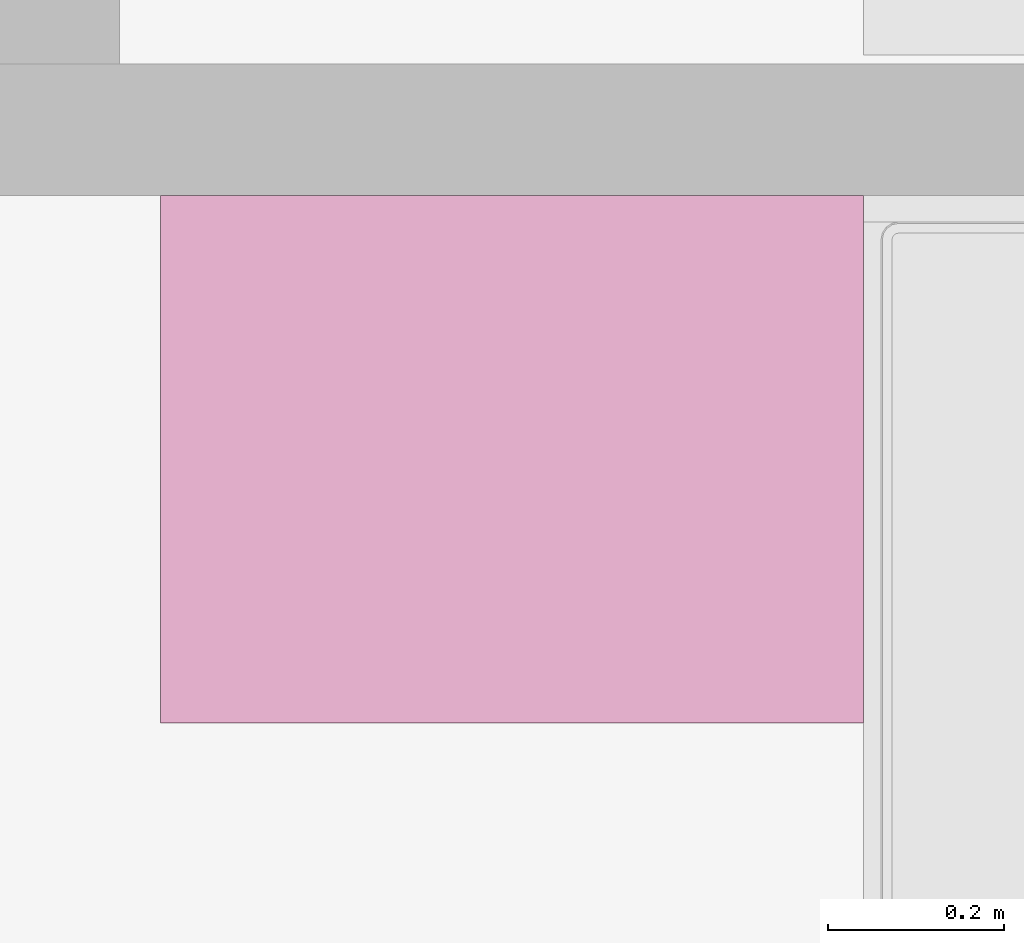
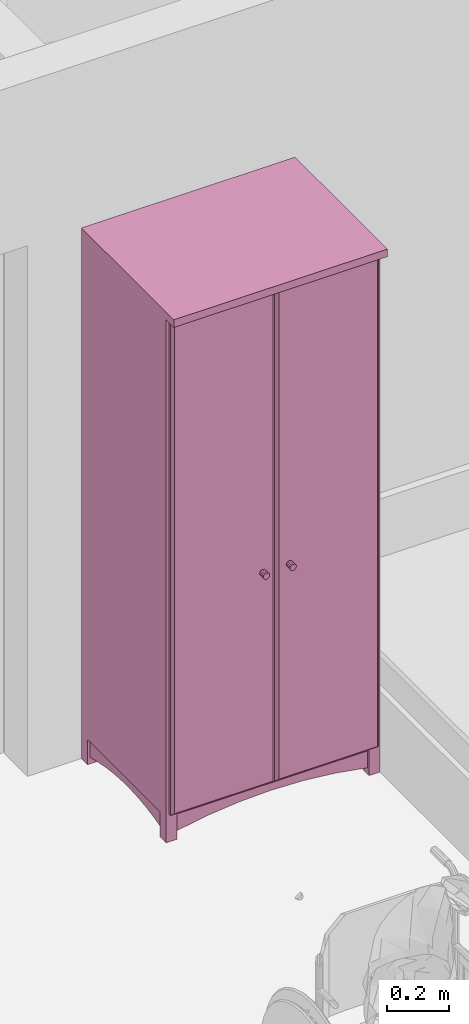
# One storey, part 120 of 172: 1 furnishing.
"""IFC2X3 building model written with IfcOpenShell, lengths in millimetres."""

from ifc_helpers import new_model, entity, si_unit, converted_unit, money_unit, direction, frame, origin_with_axes, place, context, subcontext, project, spatial, faceted_brep, source, transform, mapped, material, material_list, type_object, element, save


model = new_model("IFC2X3")

# Units and contexts
model_context = context("Model", 3, precision=1e-05, world=origin_with_axes(), true_north=direction((0.0, 1.0)))
body_context = subcontext(model_context, "Body", "Model", "MODEL_VIEW")
ifc_project = project(units=[si_unit("LENGTHUNIT", "METRE", prefix="MILLI"), si_unit("AREAUNIT", "SQUARE_METRE"), si_unit("VOLUMEUNIT", "CUBIC_METRE"), converted_unit("PLANEANGLEUNIT", "DEGREE", entity("IfcPlaneAngleMeasure", 0.0174532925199), si_unit("PLANEANGLEUNIT", "RADIAN"), dimensions=[0, 0, 0, 0, 0, 0, 0]), si_unit("SOLIDANGLEUNIT", "STERADIAN"), money_unit("USD"), converted_unit("TIMEUNIT", "Year", entity("IfcTimeMeasure", 31556926.0), si_unit("TIMEUNIT", "SECOND"), dimensions=[0, 0, 0, 0, 0, 0, 0]), si_unit("MASSUNIT", "GRAM"), si_unit("THERMODYNAMICTEMPERATUREUNIT", "DEGREE_CELSIUS"), si_unit("LUMINOUSINTENSITYUNIT", "LUMEN")], contexts=[model_context])

# Site, building, storey
site_placement = place(None, origin_with_axes())
site = spatial("IfcSite", under=ifc_project, at=site_placement, Name="Site", CompositionType="ELEMENT")
building_placement = place(site_placement, origin_with_axes())
building = spatial("IfcBuilding", under=site, at=building_placement, Name="Building", CompositionType="ELEMENT")
storey_placement = place(building_placement, frame((0.0, 0.0, 3200.0), z_axis=(0.0, 0.0, 1.0), x_axis=(1.0, 0.0, 0.0)))
storey = spatial("IfcBuildingStorey", under=building, at=storey_placement, Name="3KORRUS", CompositionType="ELEMENT", Elevation=3200.0)

# Furnishing
ifc_material = material(Name="Background")
ifc_material_list = material_list([ifc_material])
furnishing_element_type = type_object("IfcFurnishingElementType", Name="Cupboard 19")
shared_shape = source(origin_with_axes(), body_context, "Body", "Brep", [
    faceted_brep([(780.0, 600.0, 120.0), (780.0, 600.0, 2050.0), (780.0, 580.0, 2050.0), (780.0, 580.0, 120.0), (20.0, 600.0, 120.0), (20.0, 600.0, 2050.0), (20.0, 580.0, 2050.0), (20.0, 580.0, 120.0)], [[[0, 1, 2, 3]], [[4, 5, 1, 0]], [[1, 5, 6, 2]], [[3, 2, 6, 7]], [[0, 3, 7, 4]], [[7, 6, 5, 4]]]),
    faceted_brep([(0.0, 50.0, 100.0), (0.0, 600.0, 100.0), (20.0, 600.0, 100.0), (20.0, 50.0, 100.0), (0.0, 50.0, 2070.0), (0.0, 600.0, 2070.0), (20.0, 600.0, 2070.0), (20.0, 50.0, 2070.0)], [[[0, 1, 2, 3]], [[0, 4, 5, 1]], [[1, 5, 6, 2]], [[2, 6, 7, 3]], [[3, 7, 4, 0]], [[7, 6, 5, 4]]]),
    faceted_brep([(780.0, 50.0, 100.0), (780.0, 600.0, 100.0), (800.0, 600.0, 100.0), (800.0, 50.0, 100.0), (780.0, 50.0, 2070.0), (780.0, 600.0, 2070.0), (800.0, 600.0, 2070.0), (800.0, 50.0, 2070.0)], [[[0, 1, 2, 3]], [[0, 4, 5, 1]], [[1, 5, 6, 2]], [[2, 6, 7, 3]], [[3, 7, 4, 0]], [[7, 6, 5, 4]]]),
    faceted_brep([(20.0, 50.0, 100.0), (20.0, 600.0, 100.0), (780.0, 600.0, 100.0), (780.0, 50.0, 100.0), (20.0, 50.0, 120.0), (20.0, 600.0, 120.0), (780.0, 600.0, 120.0), (780.0, 50.0, 120.0)], [[[0, 1, 2, 3]], [[0, 4, 5, 1]], [[1, 5, 6, 2]], [[2, 6, 7, 3]], [[3, 7, 4, 0]], [[7, 6, 5, 4]]]),
    faceted_brep([(20.0, 50.0, 2050.0), (20.0, 600.0, 2050.0), (780.0, 600.0, 2050.0), (780.0, 50.0, 2050.0), (20.0, 50.0, 2070.0), (20.0, 600.0, 2070.0), (780.0, 600.0, 2070.0), (780.0, 50.0, 2070.0)], [[[0, 1, 2, 3]], [[0, 4, 5, 1]], [[1, 5, 6, 2]], [[2, 6, 7, 3]], [[3, 7, 4, 0]], [[7, 6, 5, 4]]]),
    faceted_brep([(0.0, 600.0, 2070.0), (0.0, 0.0, 2070.0), (0.0, 0.0, 2100.0), (0.0, 600.0, 2100.0), (800.0, 600.0, 2070.0), (800.0, 0.0, 2070.0), (800.0, 0.0, 2100.0), (800.0, 600.0, 2100.0)], [[[0, 1, 2, 3]], [[0, 4, 5, 1]], [[1, 5, 6, 2]], [[3, 2, 6, 7]], [[4, 0, 3, 7]], [[5, 4, 7, 6]]]),
    faceted_brep([(760.0, 590.0, 25.0), (760.0, 570.0, 25.0), (640.962, 570.0, 45.8), (640.962, 590.0, 45.8), (760.0, 590.0, 100.0), (760.0, 570.0, 100.0), (40.0, 570.0, 100.0), (40.0, 570.0, 25.0), (159.038, 570.0, 45.8), (279.23, 570.0, 58.32), (400.0, 570.0, 62.5), (520.77, 570.0, 58.32), (520.77, 590.0, 58.32), (400.0, 590.0, 62.5), (279.23, 590.0, 58.32), (159.038, 590.0, 45.8), (40.0, 590.0, 25.0), (40.0, 590.0, 100.0)], [[[0, 1, 2, 3]], [[4, 5, 1, 0]], [[1, 5, 6, 7, 8, 9, 10, 11, 2]], [[3, 2, 11, 12]], [[0, 3, 12, 13, 14, 15, 16, 17, 4]], [[17, 6, 5, 4]], [[16, 7, 6, 17]], [[15, 8, 7, 16]], [[14, 9, 8, 15]], [[13, 10, 9, 14]], [[12, 11, 10, 13]]]),
    faceted_brep([(760.0, 80.0, 25.0), (760.0, 60.0, 25.0), (640.962, 60.0, 45.8), (640.962, 80.0, 45.8), (760.0, 80.0, 100.0), (760.0, 60.0, 100.0), (40.0, 60.0, 100.0), (40.0, 60.0, 25.0), (159.038, 60.0, 45.8), (279.23, 60.0, 58.32), (400.0, 60.0, 62.5), (520.77, 60.0, 58.32), (520.77, 80.0, 58.32), (400.0, 80.0, 62.5), (279.23, 80.0, 58.32), (159.038, 80.0, 45.8), (40.0, 80.0, 25.0), (40.0, 80.0, 100.0)], [[[0, 1, 2, 3]], [[4, 5, 1, 0]], [[1, 5, 6, 7, 8, 9, 10, 11, 2]], [[3, 2, 11, 12]], [[0, 3, 12, 13, 14, 15, 16, 17, 4]], [[17, 6, 5, 4]], [[16, 7, 6, 17]], [[15, 8, 7, 16]], [[14, 9, 8, 15]], [[13, 10, 9, 14]], [[12, 11, 10, 13]]]),
    faceted_brep([(790.0, 90.0, 25.0), (770.0, 90.0, 25.0), (770.0, 141.266, 38.072), (790.0, 141.266, 38.072), (790.0, 90.0, 100.0), (770.0, 90.0, 100.0), (770.0, 560.0, 100.0), (770.0, 560.0, 25.0), (770.0, 508.734, 38.072), (770.0, 456.752, 47.92), (770.0, 404.257, 54.508), (770.0, 351.453, 57.808), (770.0, 298.547, 57.808), (770.0, 245.743, 54.508), (770.0, 193.248, 47.92), (790.0, 193.248, 47.92), (790.0, 245.743, 54.508), (790.0, 298.547, 57.808), (790.0, 351.453, 57.808), (790.0, 404.257, 54.508), (790.0, 456.752, 47.92), (790.0, 508.734, 38.072), (790.0, 560.0, 25.0), (790.0, 560.0, 100.0)], [[[0, 1, 2, 3]], [[4, 5, 1, 0]], [[1, 5, 6, 7, 8, 9, 10, 11, 12, 13, 14, 2]], [[3, 2, 14, 15]], [[0, 3, 15, 16, 17, 18, 19, 20, 21, 22, 23, 4]], [[23, 6, 5, 4]], [[22, 7, 6, 23]], [[21, 8, 7, 22]], [[20, 9, 8, 21]], [[19, 10, 9, 20]], [[18, 11, 10, 19]], [[17, 12, 11, 18]], [[16, 13, 12, 17]], [[15, 14, 13, 16]]]),
    faceted_brep([(30.0, 90.0, 25.0), (10.0, 90.0, 25.0), (10.0, 141.266, 38.072), (30.0, 141.266, 38.072), (30.0, 90.0, 100.0), (10.0, 90.0, 100.0), (10.0, 560.0, 100.0), (10.0, 560.0, 25.0), (10.0, 508.734, 38.072), (10.0, 456.752, 47.92), (10.0, 404.257, 54.508), (10.0, 351.453, 57.808), (10.0, 298.547, 57.808), (10.0, 245.743, 54.508), (10.0, 193.248, 47.92), (30.0, 193.248, 47.92), (30.0, 245.743, 54.508), (30.0, 298.547, 57.808), (30.0, 351.453, 57.808), (30.0, 404.257, 54.508), (30.0, 456.752, 47.92), (30.0, 508.734, 38.072), (30.0, 560.0, 25.0), (30.0, 560.0, 100.0)], [[[0, 1, 2, 3]], [[4, 5, 1, 0]], [[1, 5, 6, 7, 8, 9, 10, 11, 12, 13, 14, 2]], [[3, 2, 14, 15]], [[0, 3, 15, 16, 17, 18, 19, 20, 21, 22, 23, 4]], [[23, 6, 5, 4]], [[22, 7, 6, 23]], [[21, 8, 7, 22]], [[20, 9, 8, 21]], [[19, 10, 9, 20]], [[18, 11, 10, 19]], [[17, 12, 11, 18]], [[16, 13, 12, 17]], [[15, 14, 13, 16]]]),
    faceted_brep([(760.0, 560.0, 0.0), (760.0, 560.0, 100.0), (760.0, 600.0, 100.0), (760.0, 600.0, 0.0), (800.0, 560.0, 0.0), (800.0, 560.0, 100.0), (800.0, 600.0, 100.0), (800.0, 600.0, 0.0)], [[[0, 1, 2, 3]], [[4, 5, 1, 0]], [[1, 5, 6, 2]], [[3, 2, 6, 7]], [[0, 3, 7, 4]], [[7, 6, 5, 4]]]),
    faceted_brep([(0.0, 560.0, 0.0), (0.0, 560.0, 100.0), (0.0, 600.0, 100.0), (0.0, 600.0, 0.0), (40.0, 560.0, 0.0), (40.0, 560.0, 100.0), (40.0, 600.0, 100.0), (40.0, 600.0, 0.0)], [[[0, 1, 2, 3]], [[4, 5, 1, 0]], [[1, 5, 6, 2]], [[3, 2, 6, 7]], [[0, 3, 7, 4]], [[7, 6, 5, 4]]]),
    faceted_brep([(760.0, 50.0, 0.0), (760.0, 50.0, 100.0), (760.0, 90.0, 100.0), (760.0, 90.0, 0.0), (800.0, 50.0, 0.0), (800.0, 50.0, 100.0), (800.0, 90.0, 100.0), (800.0, 90.0, 0.0)], [[[0, 1, 2, 3]], [[4, 5, 1, 0]], [[1, 5, 6, 2]], [[3, 2, 6, 7]], [[0, 3, 7, 4]], [[7, 6, 5, 4]]]),
    faceted_brep([(0.0, 50.0, 0.0), (0.0, 50.0, 100.0), (0.0, 90.0, 100.0), (0.0, 90.0, 0.0), (40.0, 50.0, 0.0), (40.0, 50.0, 100.0), (40.0, 90.0, 100.0), (40.0, 90.0, 0.0)], [[[0, 1, 2, 3]], [[4, 5, 1, 0]], [[1, 5, 6, 2]], [[3, 2, 6, 7]], [[0, 3, 7, 4]], [[7, 6, 5, 4]]]),
    faceted_brep([(780.0, 580.0, 587.5), (780.0, 580.0, 607.5), (780.0, 50.0, 607.5), (780.0, 50.0, 587.5), (20.0, 580.0, 587.5), (20.0, 580.0, 607.5), (20.0, 50.0, 607.5), (20.0, 50.0, 587.5)], [[[0, 1, 2, 3]], [[4, 5, 1, 0]], [[1, 5, 6, 2]], [[3, 2, 6, 7]], [[0, 3, 7, 4]], [[7, 6, 5, 4]]]),
    faceted_brep([(780.0, 580.0, 1075.0), (780.0, 580.0, 1095.0), (780.0, 50.0, 1095.0), (780.0, 50.0, 1075.0), (20.0, 580.0, 1075.0), (20.0, 580.0, 1095.0), (20.0, 50.0, 1095.0), (20.0, 50.0, 1075.0)], [[[0, 1, 2, 3]], [[4, 5, 1, 0]], [[1, 5, 6, 2]], [[3, 2, 6, 7]], [[0, 3, 7, 4]], [[7, 6, 5, 4]]]),
    faceted_brep([(780.0, 580.0, 1562.5), (780.0, 580.0, 1582.5), (780.0, 50.0, 1582.5), (780.0, 50.0, 1562.5), (20.0, 580.0, 1562.5), (20.0, 580.0, 1582.5), (20.0, 50.0, 1582.5), (20.0, 50.0, 1562.5)], [[[0, 1, 2, 3]], [[4, 5, 1, 0]], [[1, 5, 6, 2]], [[3, 2, 6, 7]], [[0, 3, 7, 4]], [[7, 6, 5, 4]]]),
    faceted_brep([(789.5, 50.0, 110.5), (400.5, 50.0, 110.5), (400.5, 50.0, 2059.5), (789.5, 50.0, 2059.5), (789.5, 40.0, 110.5), (400.5, 40.0, 110.5), (400.5, 40.0, 2059.5), (789.5, 40.0, 2059.5), (779.5, 30.0, 120.5), (410.5, 30.0, 120.5), (410.5, 30.0, 2049.5), (779.5, 30.0, 2049.5)], [[[0, 1, 2, 3]], [[0, 4, 5, 1]], [[1, 5, 6, 2]], [[2, 6, 7, 3]], [[3, 7, 4, 0]], [[4, 8, 9, 5]], [[5, 9, 10, 6]], [[6, 10, 11, 7]], [[7, 11, 8, 4]], [[10, 9, 8, 11]]]),
    faceted_brep([(399.5, 50.0, 110.5), (10.5, 50.0, 110.5), (10.5, 50.0, 2059.5), (399.5, 50.0, 2059.5), (399.5, 40.0, 110.5), (10.5, 40.0, 110.5), (10.5, 40.0, 2059.5), (399.5, 40.0, 2059.5), (389.5, 30.0, 120.5), (20.5, 30.0, 120.5), (20.5, 30.0, 2049.5), (389.5, 30.0, 2049.5)], [[[0, 1, 2, 3]], [[0, 4, 5, 1]], [[1, 5, 6, 2]], [[2, 6, 7, 3]], [[3, 7, 4, 0]], [[4, 8, 9, 5]], [[5, 9, 10, 6]], [[6, 10, 11, 7]], [[7, 11, 8, 4]], [[10, 9, 8, 11]]]),
    faceted_brep([(339.608, 30.0, 954.0), (338.0, 30.0, 960.0), (339.608, 30.0, 966.0), (344.0, 30.0, 970.392), (350.0, 30.0, 972.0), (356.0, 30.0, 970.392), (360.392, 30.0, 966.0), (362.0, 30.0, 960.0), (360.392, 30.0, 954.0), (356.0, 30.0, 949.608), (350.0, 30.0, 948.0), (344.0, 30.0, 949.608), (339.608, 5.0, 954.0), (338.0, 5.0, 960.0), (339.608, 5.0, 966.0), (344.0, 5.0, 970.392), (350.0, 5.0, 972.0), (356.0, 5.0, 970.392), (360.392, 5.0, 966.0), (362.0, 5.0, 960.0), (360.392, 5.0, 954.0), (356.0, 5.0, 949.608), (350.0, 5.0, 948.0), (344.0, 5.0, 949.608)], [[[0, 1, 2, 3, 4, 5, 6, 7, 8, 9, 10, 11]], [[0, 12, 13, 1]], [[1, 13, 14, 2]], [[2, 14, 15, 3]], [[3, 15, 16, 4]], [[4, 16, 17, 5]], [[5, 17, 18, 6]], [[6, 18, 19, 7]], [[7, 19, 20, 8]], [[8, 20, 21, 9]], [[9, 21, 22, 10]], [[10, 22, 23, 11]], [[11, 23, 12, 0]], [[12, 23, 22, 21, 20, 19, 18, 17, 16, 15, 14, 13]]]),
    faceted_brep([(460.392, 30.0, 954.0), (456.0, 30.0, 949.608), (450.0, 30.0, 948.0), (444.0, 30.0, 949.608), (439.608, 30.0, 954.0), (438.0, 30.0, 960.0), (439.608, 30.0, 966.0), (444.0, 30.0, 970.392), (450.0, 30.0, 972.0), (456.0, 30.0, 970.392), (460.392, 30.0, 966.0), (462.0, 30.0, 960.0), (460.392, 5.0, 954.0), (456.0, 5.0, 949.608), (450.0, 5.0, 948.0), (444.0, 5.0, 949.608), (439.608, 5.0, 954.0), (438.0, 5.0, 960.0), (439.608, 5.0, 966.0), (444.0, 5.0, 970.392), (450.0, 5.0, 972.0), (456.0, 5.0, 970.392), (460.392, 5.0, 966.0), (462.0, 5.0, 960.0)], [[[0, 1, 2, 3, 4, 5, 6, 7, 8, 9, 10, 11]], [[1, 0, 12, 13]], [[2, 1, 13, 14]], [[3, 2, 14, 15]], [[4, 3, 15, 16]], [[5, 4, 16, 17]], [[6, 5, 17, 18]], [[7, 6, 18, 19]], [[8, 7, 19, 20]], [[9, 8, 20, 21]], [[10, 9, 21, 22]], [[11, 10, 22, 23]], [[0, 11, 23, 12]], [[12, 23, 22, 21, 20, 19, 18, 17, 16, 15, 14, 13]]]),
])
furnishing_placement = place(storey_placement, frame((-13990.2967033, -16779.7357921, 0.0), z_axis=(0.0, 0.0, 1.0), x_axis=(1.0, 0.0, 0.0)))
element("IfcFurnishingElement", 1, at=furnishing_placement, inside=storey, type_object=furnishing_element_type, material=ifc_material_list, Name="FU - 014", context=body_context, shape_type="MappedRepresentation", body=[
    mapped(shared_shape, transform((0.0, 0.0, 0.0))),
])

save(model, "model.ifc")
